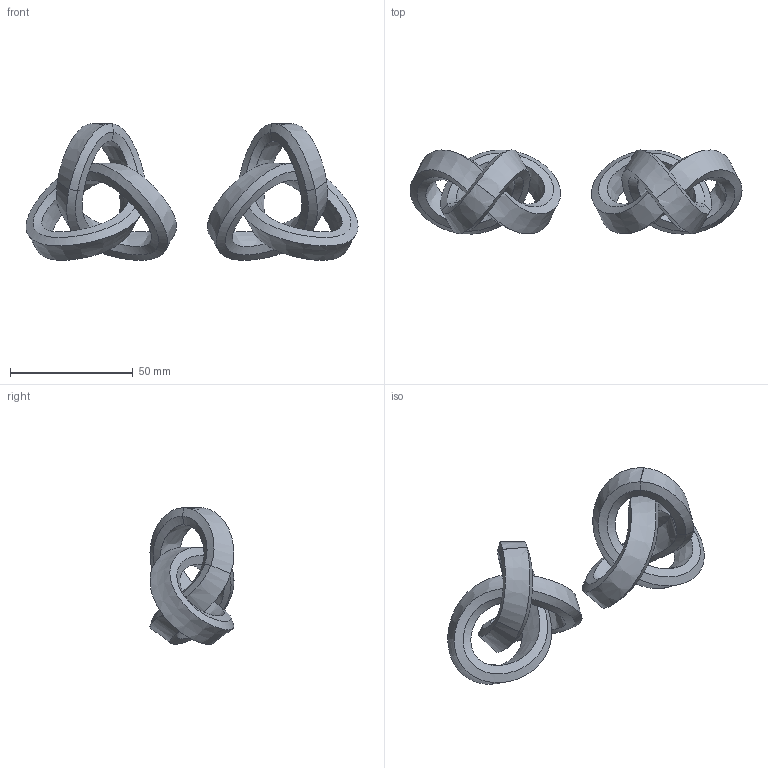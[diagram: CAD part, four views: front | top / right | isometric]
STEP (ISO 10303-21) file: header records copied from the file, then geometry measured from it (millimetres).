
FILE_DESCRIPTION(/* description */ (''),/* implementation_level */ '2;1');
FILE_NAME(/* name */ 'D:/Documents/Projects/3D Printing/Models/Project - My Designs/Project - Dr stone - Medusa - trefoil knot/Thingiverse/Medusa - Dr Stone v7.step',/* time_stamp */ '2021-10-13T00:51:59-07:00',/* author */ (''),/* organization */ (''),/* preprocessor_version */ 'ST-DEVELOPER v18.1',/* originating_system */ 'Autodesk Translation Framework v10.10.0.1391',/* authorisation */ '');
FILE_SCHEMA (('AUTOMOTIVE_DESIGN { 1 0 10303 214 3 1 1 }'));
Length unit declared in the file: millimetre
Products named in the file (1): Medusa - Dr Stone
Bounding box: 135.44 x 34.28 x 55.77 mm (x, y, z)
Volume: 44042.1 mm3; surface area: 19925 mm2
Topology: 2 solids, 2 shells, 32 faces, 67 edges, 37 vertices
Faces by surface type: bspline 30, plane 2
Entity records: 3953 total; most frequent: CARTESIAN_POINT 3389, ORIENTED_EDGE 134, EDGE_CURVE 67, DIRECTION 49, LINE 43, VECTOR 43, VERTEX_POINT 37, FACE_OUTER_BOUND 32
